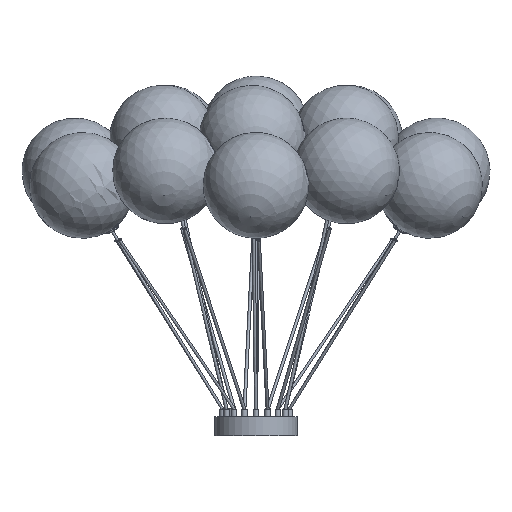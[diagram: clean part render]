
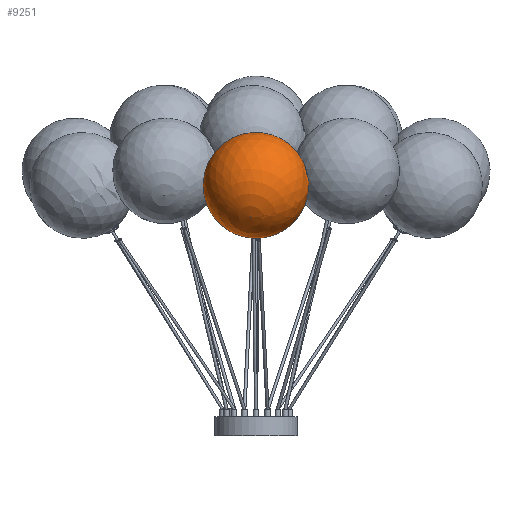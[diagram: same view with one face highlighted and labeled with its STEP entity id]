
A CAD part, front view. The second image highlights one B-rep face of the part: STEP entity #9251.
In plain terms, the highlighted spherical face has radius 125 mm.
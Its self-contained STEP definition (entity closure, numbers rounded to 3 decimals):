
#106=FACE_BOUND('',#2199,.T.);
#168=SPHERICAL_SURFACE('',#10660,125.);
#1411=FACE_OUTER_BOUND('',#2198,.T.);
#2198=EDGE_LOOP('',(#7710,#7711));
#2199=EDGE_LOOP('',(#7712));
#3791=CIRCLE('',#10657,14.491);
#3793=CIRCLE('',#10661,125.);
#4616=VERTEX_POINT('',#16759);
#4619=VERTEX_POINT('',#16767);
#4620=VERTEX_POINT('',#16768);
#5702=EDGE_CURVE('',#4616,#4616,#3791,.T.);
#5704=EDGE_CURVE('',#4619,#4620,#3793,.T.);
#7710=ORIENTED_EDGE('',*,*,#5704,.T.);
#7711=ORIENTED_EDGE('',*,*,#5704,.F.);
#7712=ORIENTED_EDGE('',*,*,#5702,.F.);
#9251=ADVANCED_FACE('',(#1411,#106),#168,.T.);
#10657=AXIS2_PLACEMENT_3D('',#16761,#13453,#13454);
#10660=AXIS2_PLACEMENT_3D('',#16766,#13459,#13460);
#10661=AXIS2_PLACEMENT_3D('',#16769,#13461,#13462);
#13453=DIRECTION('center_axis',(0.041,0.601,-0.798));
#13454=DIRECTION('ref_axis',(-0.994,0.105,0.028));
#13459=DIRECTION('center_axis',(-0.101,-0.792,-0.602));
#13460=DIRECTION('ref_axis',(-0.994,0.105,0.028));
#13461=DIRECTION('center_axis',(-0.041,-0.601,
0.798));
#13462=DIRECTION('ref_axis',(0.994,-0.105,-0.028));
#16759=CARTESIAN_POINT('',(6.595,-386.4,455.363));
#16761=CARTESIAN_POINT('Origin',(5.138,-397.882,446.644));
#16766=CARTESIAN_POINT('Origin',(0.,-472.493,
545.749));
#16767=CARTESIAN_POINT('',(-12.571,-571.536,470.532));
#16768=CARTESIAN_POINT('',(12.571,-373.451,620.965));
#16769=CARTESIAN_POINT('Origin',(0.,-472.493,
545.749));
